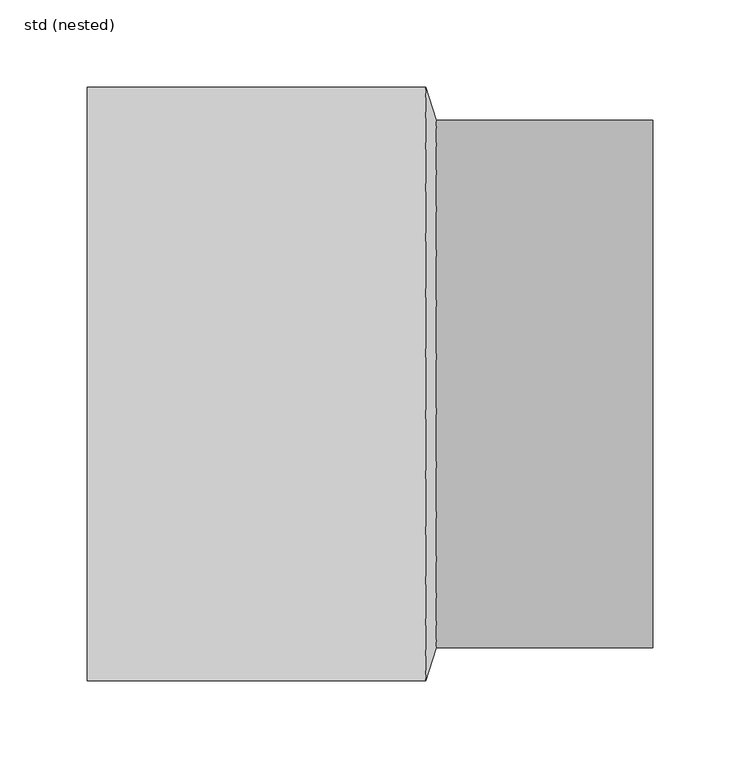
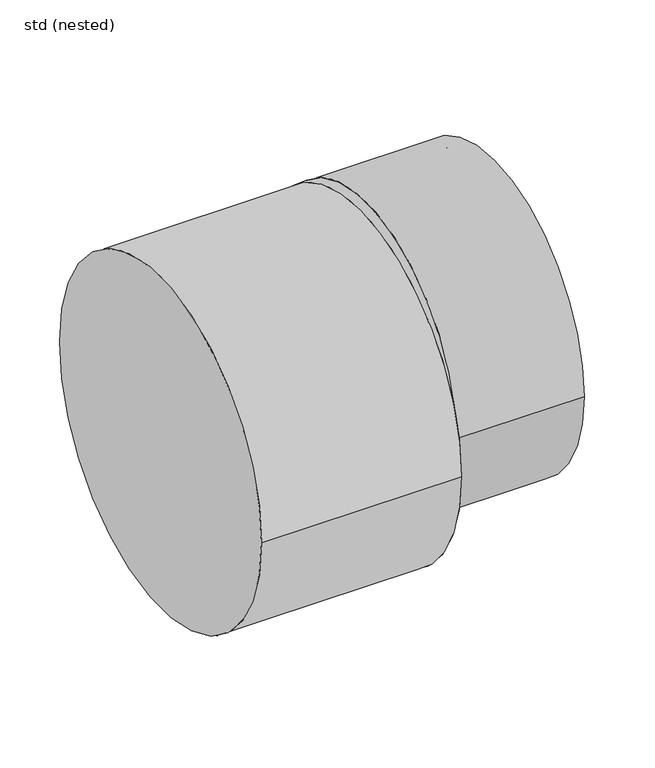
"""IFC4 building model written with IfcOpenShell, lengths in millimetres: pipe fitting geometry, NLRS_52_PIF_WPB_Ultra Kyma verloop MV SH_Dyka : std (nested)."""

from ifc_helpers import new_model, si_unit, point, frame, frame_2d, origin, origin_2d, place, context, project, spatial, circle_curve, trimmed, segment, composite_curve, outline, extrude, source, transform, mapped, element, save
from ifc_brep_helpers import plane_surface, spline_surface, advanced_brep


def std_nested_169e8520(model_context):
    return source(origin(), model_context, "Body", "SolidModel", [
        extrude(outline(composite_curve([segment(trimmed(circle_curve(frame_2d((0.0, 25.0)), 151.0), [point((-151.0, 25.0))], [point((151.0, 25.0))], False, "CARTESIAN"), True, "CONTINUOUS"), segment(trimmed(circle_curve(frame_2d((0.0, 25.0)), 151.0), [point((151.0, 25.0))], [point((-151.0, 25.0))], False, "CARTESIAN"), True, "CONTINUOUS")], self_intersect=False), holes=[composite_curve([segment(trimmed(circle_curve(frame_2d((0.0, 25.0)), 140.0), [point((140.0, 25.0))], [point((-140.0, 25.0))], True, "CARTESIAN"), True, "CONTINUOUS"), segment(trimmed(circle_curve(frame_2d((0.0, 25.0)), 140.0), [point((-140.0, 25.0))], [point((140.0, 25.0))], True, "CARTESIAN"), True, "CONTINUOUS")], self_intersect=False)]), frame((200.0, 0.0, 0.0), z_axis=(1.0, 0.0, 0.0), x_axis=(0.0, 1.0, 0.0)), (0.0, 0.0, 1.0), 124.0),
        extrude(outline(composite_curve([segment(trimmed(circle_curve(origin_2d(), 170.0), [point((-170.0, 0.0))], [point((170.0, 0.0))], False, "CARTESIAN"), True, "CONTINUOUS"), segment(trimmed(circle_curve(origin_2d(), 170.0), [point((170.0, 0.0))], [point((-170.0, 0.0))], False, "CARTESIAN"), True, "CONTINUOUS")], self_intersect=False)), frame((0.0, 0.0, 0.0), z_axis=(1.0, 0.0, 0.0), x_axis=(0.0, 1.0, 0.0)), (0.0, 0.0, 1.0), 194.0),
        advanced_brep(
        [(200.0, -151.0, 25.0), (200.0, 151.0, 25.0), (194.0, -170.0, 0.0), (194.0, 170.0, 0.0)],
        [
            (0, 1, circle_curve(frame((200.0, 0.0, 25.0), z_axis=(1.0, 0.0, 0.0), x_axis=(0.0, 1.0, 0.0)), 151.0)),
            (1, 0, circle_curve(frame((200.0, 0.0, 25.0), z_axis=(1.0, 0.0, 0.0), x_axis=(0.0, 1.0, 0.0)), 151.0)),
            (2, 3, circle_curve(frame((194.0, 0.0, 0.0), z_axis=(-1.0, 0.0, 0.0), x_axis=(0.0, 1.0, 0.0)), 170.0)),
            (3, 2, circle_curve(frame((194.0, 0.0, 0.0), z_axis=(-1.0, 0.0, 0.0), x_axis=(0.0, 1.0, 0.0)), 170.0)),
            (2, 0),
            (1, 3),
        ],
        [
            plane_surface(frame((200.0, 0.0, 25.0), z_axis=(1.0, 0.0, 0.0), x_axis=(0.0, 0.0, -1.0))),
            plane_surface(frame((194.0, 0.0, 0.0), z_axis=(-1.0, 0.0, 0.0), x_axis=(0.0, 0.0, -1.0))),
            spline_surface(2, 1, [[(194.0, 170.0, 0.0), (200.0, 151.0, 25.0)], [(194.0, 170.0, 170.0), (200.0, 151.0, 176.0)], [(194.0, 0.0, 170.0), (200.0, 0.0, 176.0)], [(194.0, -170.0, 170.0), (200.0, -151.0, 176.0)], [(194.0, -170.0, 0.0), (200.0, -151.0, 25.0)]], [3, 2, 3], [2, 2], [0.0, 1.0, 2.0], [0.0, 1.0], weights=[[1.0, 1.0], [0.7071067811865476, 0.7071067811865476], [1.0, 1.0], [0.7071067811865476, 0.7071067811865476], [1.0, 1.0]]),
            spline_surface(2, 1, [[(194.0, -170.0, 0.0), (200.0, -151.0, 25.0)], [(194.0, -170.0, -170.0), (200.0, -151.0, -126.0)], [(194.0, 0.0, -170.0), (200.0, 0.0, -126.0)], [(194.0, 170.0, -170.0), (200.0, 151.0, -126.0)], [(194.0, 170.0, 0.0), (200.0, 151.0, 25.0)]], [3, 2, 3], [2, 2], [0.0, 1.0, 2.0], [0.0, 1.0], weights=[[1.0, 1.0], [0.7071067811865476, 0.7071067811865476], [1.0, 1.0], [0.7071067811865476, 0.7071067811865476], [1.0, 1.0]]),
        ],
        [
            (0, [[1, 2]]),
            (1, [[3, 4]]),
            (2, [[-3, 5, -2, 6]]),
            (3, [[-4, -6, -1, -5]]),
        ],
    ),
    ])


if __name__ == "__main__":
    model = new_model("IFC4")
    model_context = context("Model", 3, world=origin())
    ifc_project = project(units=[si_unit("LENGTHUNIT", "METRE", prefix="MILLI")], contexts=[model_context])
    site = spatial("IfcSite", under=ifc_project)
    building = spatial("IfcBuilding", under=site)
    placement = place(None, origin())
    std_nested_shape = std_nested_169e8520(model_context)
    element("IfcPipeFitting", 1, ObjectType="NLRS_52_PIF_WPB_Ultra Kyma verloop MV SH_Dyka : std (nested)", at=placement, inside=building, context=model_context, shape_type="MappedRepresentation", body=[
        mapped(std_nested_shape, transform((0.0, 0.0, 0.0), x_axis=(1.0, 0.0, 0.0), y_axis=(0.0, 1.0, 0.0), z_axis=(0.0, 0.0, 1.0))),
    ])
    save(model, "model.ifc")
